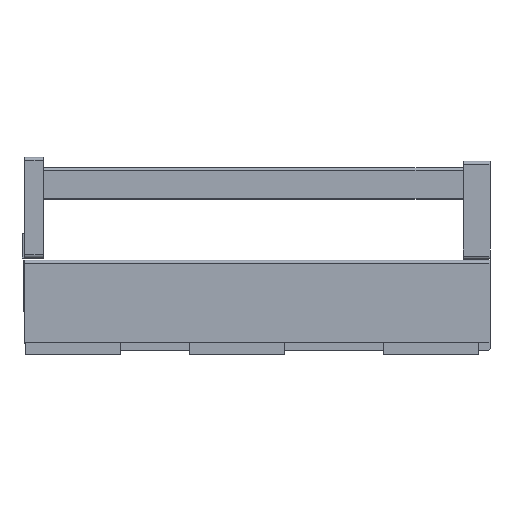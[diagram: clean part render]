
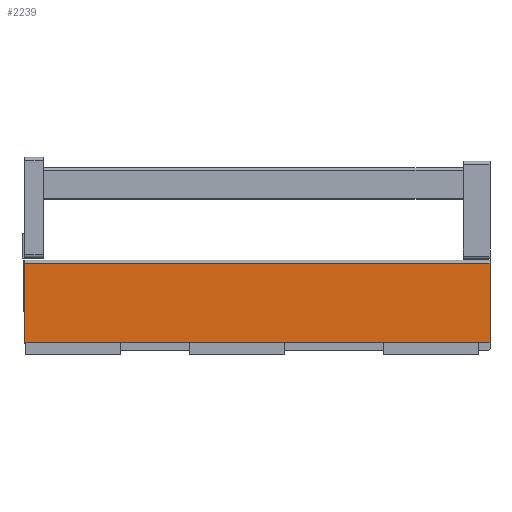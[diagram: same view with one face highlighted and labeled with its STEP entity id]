
A CAD part, left-side view. The second image highlights one B-rep face of the part: STEP entity #2239.
In plain terms, the highlighted planar face has unit normal (-1, 0, 0).
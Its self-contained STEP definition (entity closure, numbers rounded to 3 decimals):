
#260 = EDGE_LOOP ( 'NONE', ( #1165, #1166, #1167, #1168 ) ) ;
#1165 = ORIENTED_EDGE ( 'NONE', *, *, #2962, .F. ) ;
#1166 = ORIENTED_EDGE ( 'NONE', *, *, #3092, .F. ) ;
#1167 = ORIENTED_EDGE ( 'NONE', *, *, #2684, .T. ) ;
#1168 = ORIENTED_EDGE ( 'NONE', *, *, #2568, .T. ) ;
#1382 = VECTOR ( 'NONE', #3488, 1000. ) ;
#1390 = LINE ( 'NONE', #3473, #1382 ) ;
#1709 = LINE ( 'NONE', #5268, #1711 ) ;
#1711 = VECTOR ( 'NONE', #5269, 1000. ) ;
#1837 = LINE ( 'NONE', #5113, #1839 ) ;
#1839 = VECTOR ( 'NONE', #5115, 1000. ) ;
#1930 = FACE_OUTER_BOUND ( 'NONE', #260, .T. ) ;
#2239 = ADVANCED_FACE ( 'NONE', ( #1930 ), #4779, .F. ) ;
#2434 = VECTOR ( 'NONE', #3678, 1000. ) ;
#2436 = LINE ( 'NONE', #3677, #2434 ) ;
#2491 = VERTEX_POINT ( 'NONE', #5036 ) ;
#2524 = VERTEX_POINT ( 'NONE', #5074 ) ;
#2528 = VERTEX_POINT ( 'NONE', #5078 ) ;
#2541 = VERTEX_POINT ( 'NONE', #5091 ) ;
#2568 = EDGE_CURVE ( 'NONE', #2541, #2528, #1837, .T. ) ;
#2684 = EDGE_CURVE ( 'NONE', #2491, #2541, #1709, .T. ) ;
#2962 = EDGE_CURVE ( 'NONE', #2524, #2528, #1390, .T. ) ;
#3092 = EDGE_CURVE ( 'NONE', #2491, #2524, #2436, .T. ) ;
#3255 = AXIS2_PLACEMENT_3D ( 'NONE', #4778, #4781, #4782 ) ;
#3473 = CARTESIAN_POINT ( 'NONE',  ( -4.1, 0., -28.503 ) ) ;
#3488 = DIRECTION ( 'NONE',  ( 0., 0., -1. ) ) ;
#3677 = CARTESIAN_POINT ( 'NONE',  ( -4.1, 440., 46.498 ) ) ;
#3678 = DIRECTION ( 'NONE',  ( 0., -1., 0. ) ) ;
#4778 = CARTESIAN_POINT ( 'NONE',  ( -4.1, 440., -28.503 ) ) ;
#4779 = PLANE ( 'NONE',  #3255 ) ;
#4781 = DIRECTION ( 'NONE',  ( 1., 0., 0. ) ) ;
#4782 = DIRECTION ( 'NONE',  ( 0., 0., -1. ) ) ;
#5036 = CARTESIAN_POINT ( 'NONE',  ( -4.1, 440., 46.498 ) ) ;
#5074 = CARTESIAN_POINT ( 'NONE',  ( -4.1, 0., 46.498 ) ) ;
#5078 = CARTESIAN_POINT ( 'NONE',  ( -4.1, 0., -28.503 ) ) ;
#5091 = CARTESIAN_POINT ( 'NONE',  ( -4.1, 440., -28.503 ) ) ;
#5113 = CARTESIAN_POINT ( 'NONE',  ( -4.1, 440., -28.503 ) ) ;
#5115 = DIRECTION ( 'NONE',  ( 0., -1., 0. ) ) ;
#5268 = CARTESIAN_POINT ( 'NONE',  ( -4.1, 440., -7.702 ) ) ;
#5269 = DIRECTION ( 'NONE',  ( 0., 0., -1. ) ) ;
